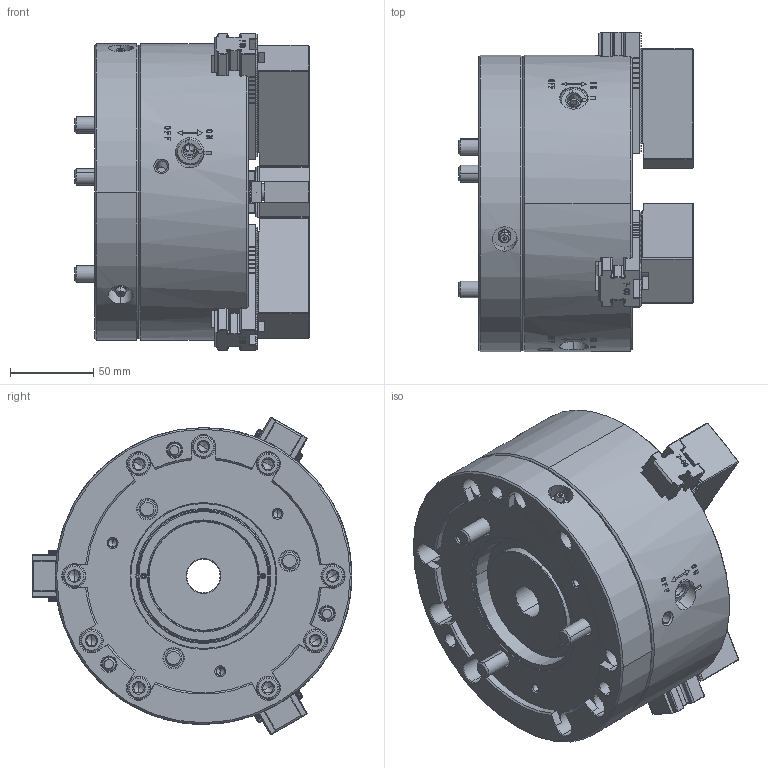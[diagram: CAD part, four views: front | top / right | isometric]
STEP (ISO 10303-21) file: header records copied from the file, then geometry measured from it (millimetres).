
FILE_DESCRIPTION (( 'STEP AP214' ), '1' );
FILE_NAME ('QJR07_61P274636-0_HCL.STEP', '2026-03-12T05:24:11', ( '' ), ( '' ), 'SwSTEP 2.0', 'SolidWorks 2022', '' );
FILE_SCHEMA (( 'AUTOMOTIVE_DESIGN' ));
Length unit declared in the file: millimetre
Products named in the file (7): DT1_QJR07_M10x90^DT1_QJR07; DT1_QJR07_DRAWNUT^DT1_QJR07; DT1_QJR07_BASE^DT1_QJR07; Copy of 0030110030^DT1_QJR07; DT1_QJR07_JAW1^DT1_QJR07; QJR07_61P274636-0_HCL; DT1_QJR07_SOFTJAW^DT1_QJR07
Assembly tree (17 placements, depth 2):
  QJR07_61P274636-0_HCL
    DT1_QJR07_DRAWNUT^DT1_QJR07
    DT1_QJR07_SOFTJAW^DT1_QJR07  x3
    DT1_QJR07_M10x90^DT1_QJR07  x3
    Copy of 0030110030^DT1_QJR07  x6
    DT1_QJR07_JAW1^DT1_QJR07  x3
    DT1_QJR07_BASE^DT1_QJR07
Bounding box: 140.65 x 191.71 x 190.24 mm (x, y, z)
Volume: 2178136.5 mm3; surface area: 291595 mm2
Topology: 17 solids, 68 shells, 8042 faces, 22129 edges, 14460 vertices
Faces by surface type: plane 4795, cylinder 1582, bspline 974, cone 609, torus 73, sphere 9
Entity records: 211776 total; most frequent: CARTESIAN_POINT 85515, ORIENTED_EDGE 28746, DIRECTION 21733, EDGE_CURVE 14373, VERTEX_POINT 9422, LINE 9301, VECTOR 9301, AXIS2_PLACEMENT_3D 6216
